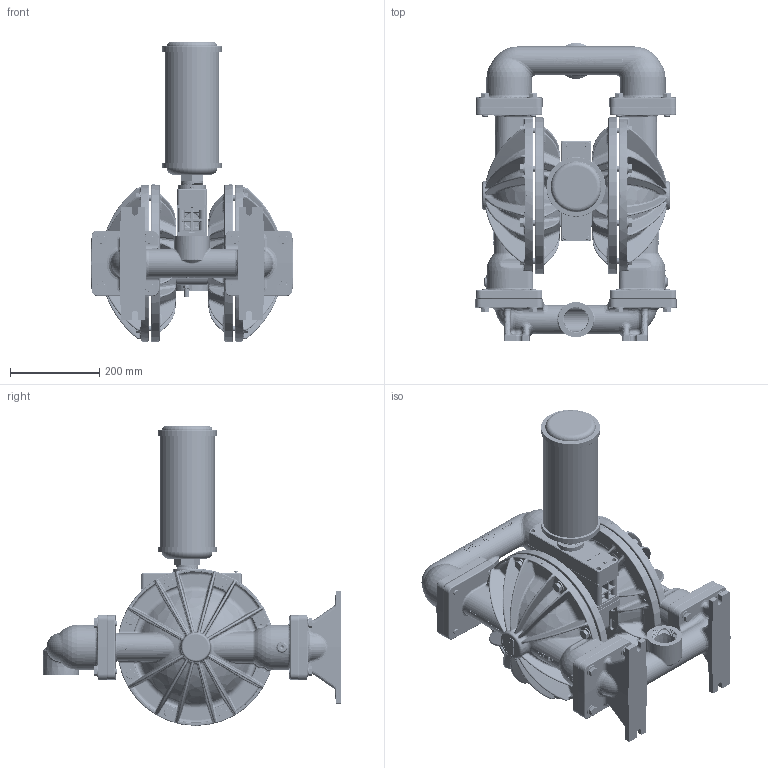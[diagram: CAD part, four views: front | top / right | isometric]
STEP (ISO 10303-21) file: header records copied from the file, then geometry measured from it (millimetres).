
FILE_DESCRIPTION((''),'2;1');
FILE_NAME('PS820_ALUMINUM_TOP_SW0001','2014-05-14T',('nathan.hale'),(''),'PRO/ENGINEER BY PARAMETRIC TECHNOLOGY CORPORATION, 2011180','PRO/ENGINEER BY PARAMETRIC TECHNOLOGY CORPORATION, 2011180','');
FILE_SCHEMA(('CONFIG_CONTROL_DESIGN'));
Length unit declared in the file: inch
Products named in the file (1): PS820_ALUMINUM_TOP_SW0001
Bounding box: 453.45 x 670.36 x 674.71 mm (x, y, z)
Volume: 17183405.5 mm3; surface area: 2865501 mm2
Topology: 2 solids, 9 shells, 18780 faces, 49419 edges, 31528 vertices
Faces by surface type: plane 11864, bspline 2443, cylinder 2018, torus 1117, cone 916, sphere 308, extrusion 114
Entity records: 1253501 total; most frequent: CARTESIAN_POINT 808553, ORIENTED_EDGE 98778, DIRECTION 82893, EDGE_CURVE 49389, VECTOR 32541, LINE 32427, VERTEX_POINT 31528, AXIS2_PLACEMENT_3D 25176
